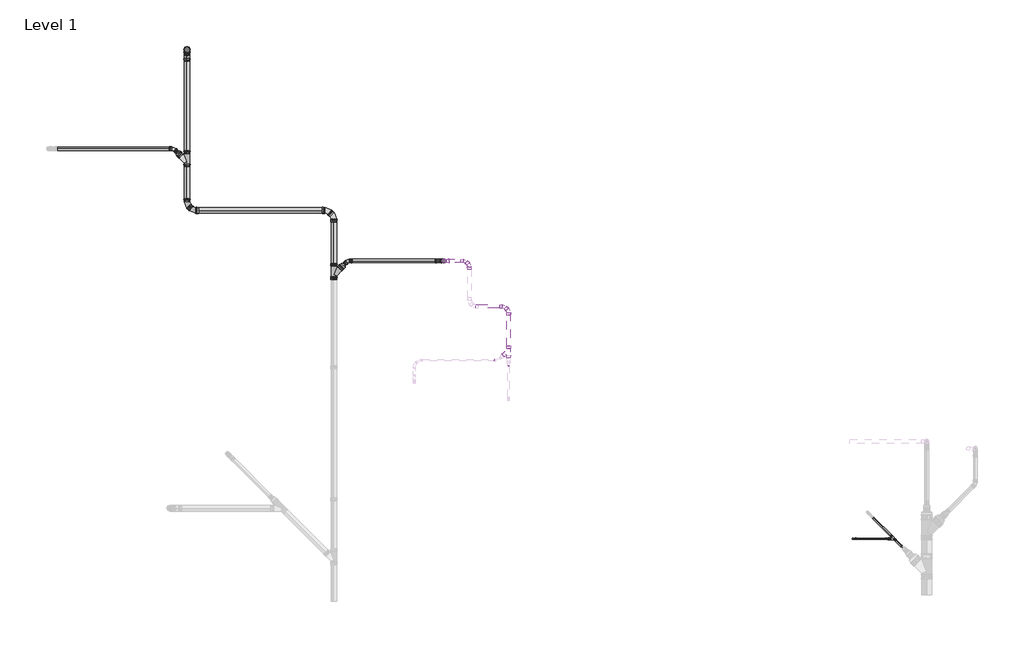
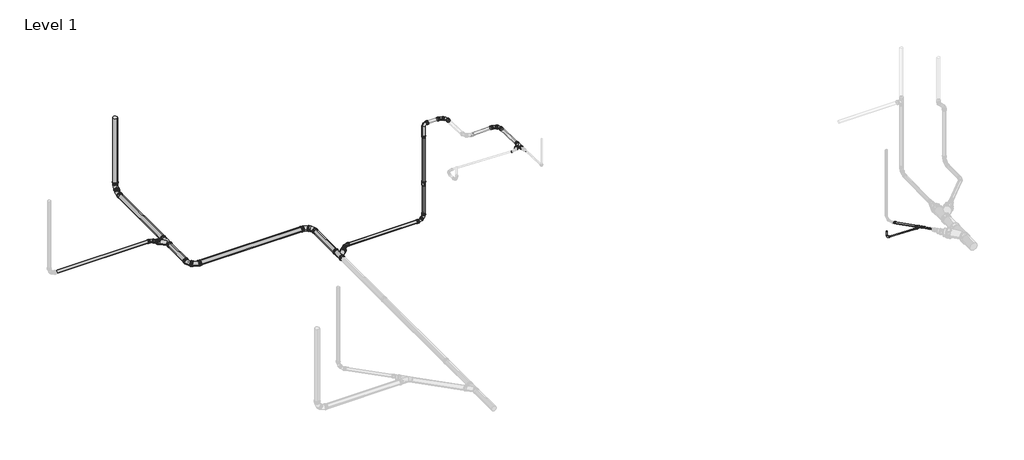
# One storey, part 2 of 8: 75 pipe fittings, 16 pipe segments.
"""IFC4 building model written with IfcOpenShell, lengths in millimetres."""

from ifc_helpers import new_model, si_unit, point, frame, frame_2d, origin, place, context, project, spatial, circle_curve, trimmed, segment, composite_curve, outline, extrude, transform, mapped, element, save
from components import std_7d5d7c72, std_7f522812, std_8a2dcd32, std_23606c27, std_dee5be90, std_f0847e49, std_f9de8ce1, std_0ddcd905, std_65e16e6f, std_512bb775, std_630098ac, std_nested_51db5023, std_nested_5b5722a1, std_nested_4232c6ad, std_nested_3508894c, std_nested_f4b71964, std_nested_afca93a4, std_nested_0d9e00e9, std_nested_fe48a173, std_nested_0864587b, std_nested_abb7c94b, std_nested_8823e034, std_nested_0554dc6d, std_nested_e6348f04, std_nested_87475930, std_nested_d12045ae, std_nested_01edd257, std_nested_ec2a7507, std_nested_473bf3f7, std_nested_352c3d66, std_nested_72f87268, std_nested_5daa23bf

model = new_model("IFC4")

# Units and contexts
model_context = context("Model", 3, world=origin())
ifc_project = project(units=[si_unit("LENGTHUNIT", "METRE", prefix="MILLI")], contexts=[model_context])

# Site, building, storey
site = spatial("IfcSite", under=ifc_project)
building = spatial("IfcBuilding", under=site)
storey = spatial("IfcBuildingStorey", under=building, Name="Level 1", Elevation=0.0)

# Pipe fittings
placement = place(None, origin())
std_shape = std_7d5d7c72(model_context)
element("IfcPipeFitting", 1, ObjectType="PIF_ST_UN_GM-X optimiserbend 1a push socket_ACO : std", at=placement, inside=storey, context=model_context, shape_type="MappedRepresentation", body=[
    mapped(std_shape, transform((-21120.1090497, 8557.3978998, 3599.9177168), x_axis=(-1.0, 0.0, 0.0), y_axis=(0.0, 0.0, -1.0), z_axis=(0.0, -1.0, 0.0))),
])
std_2_shape = std_7f522812(model_context)
element("IfcPipeFitting", 2, ObjectType="PIF_ST_UN_GM-X pipe bend_ACO : std", at=placement, inside=storey, context=model_context, shape_type="MappedRepresentation", body=[
    mapped(std_2_shape, transform((-9433.0687848, 607.4763167, 99.0030581), x_axis=(-0.9998880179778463, 0.0, 0.014965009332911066), y_axis=(0.014965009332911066, 0.0, 0.9998880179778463), z_axis=(0.0, 1.0, 0.0))),
])
std_3_shape = std_8a2dcd32(model_context)
element("IfcPipeFitting", 3, ObjectType="PIF_ST_UN_GM-X pipe end_ACO : std", at=placement, inside=storey, context=model_context, shape_type="MappedRepresentation", body=[
    mapped(std_3_shape, transform((-21120.1090497, 8557.3978998, 1317.8889473), x_axis=(0.0, 0.0, -1.0), y_axis=(0.0, -1.0, 0.0), z_axis=(-1.0, 0.0, 0.0))),
])
std_4_shape = std_23606c27(model_context)
element("IfcPipeFitting", 4, ObjectType="PIF_ST_UN_GM-X double bend_ACO : std", at=placement, inside=storey, context=model_context, shape_type="MappedRepresentation", body=[
    mapped(std_4_shape, transform((-28468.2867366, 10000.6257944, 15.5), x_axis=(0.0, -1.0, 0.0), y_axis=(1.0, 0.0, 0.0), z_axis=(0.0, 0.0, 1.0))),
])
element("IfcPipeFitting", 5, ObjectType="PIF_ST_UN_GM-X double bend_ACO : std", at=placement, inside=storey, context=model_context, shape_type="MappedRepresentation", body=[
    mapped(std_4_shape, transform((-28468.2867366, 14600.6257944, 15.5), x_axis=(0.0, 0.0, -1.0), y_axis=(0.0, -1.0, 0.0), z_axis=(-1.0, 0.0, 0.0))),
])
std_5_shape = std_dee5be90(model_context)
element("IfcPipeFitting", 6, ObjectType="PIF_ST_UN_GM-X double bend_ACO : std", at=placement, inside=storey, context=model_context, shape_type="MappedRepresentation", body=[
    mapped(std_5_shape, transform((-24268.2867366, 10000.6257944, 15.5), x_axis=(0.0, 1.0, 0.0), y_axis=(-1.0, 0.0, 0.0), z_axis=(0.0, 0.0, 1.0))),
])
std_6_shape = std_f0847e49(model_context)
element("IfcPipeFitting", 7, ObjectType="PIF_ST_UN_GM-X double bend_ACO : std", at=placement, inside=storey, context=model_context, shape_type="MappedRepresentation", body=[
    mapped(std_6_shape, transform((-21120.1090497, 8557.3978998, 44.0), x_axis=(1.0, 0.0, 0.0), y_axis=(0.0, 0.0, 1.0), z_axis=(0.0, -1.0, 0.0))),
])
std_7_shape = std_f9de8ce1(model_context)
element("IfcPipeFitting", 8, ObjectType="PIF_ST_UN_GM-X double bend_ACO : std", at=placement, inside=storey, context=model_context, shape_type="MappedRepresentation", body=[
    mapped(std_7_shape, transform((-19271.0829887, 7253.2374554, 3684.8017697), x_axis=(0.0, 0.9993880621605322, -0.03497858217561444), y_axis=(-0.999388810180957, -0.0012227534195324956, -0.034935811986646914), z_axis=(-0.03495720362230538, 0.034957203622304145, 0.9987772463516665))),
])
std_8_shape = std_0ddcd905(model_context)
element("IfcPipeFitting", 9, ObjectType="PIF_ST_UN_GM-X double bend_ACO : std", at=placement, inside=storey, context=model_context, shape_type="MappedRepresentation", body=[
    mapped(std_8_shape, transform((-20392.1811992, 8557.3978998, 3599.9177168), x_axis=(0.0, 0.9993880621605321, -0.034978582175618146), y_axis=(-1.0, 0.0, 0.0), z_axis=(0.0, 0.034978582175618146, 0.9993880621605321))),
])
std_9_shape = std_65e16e6f(model_context)
element("IfcPipeFitting", 10, ObjectType="PIF_ST_UN_GM-X multibranch_ACO : std", at=placement, inside=storey, context=model_context, shape_type="MappedRepresentation", body=[
    mapped(std_9_shape, transform((-8252.8917318, 607.4763167, 81.3325577), x_axis=(-0.7070272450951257, 0.7070272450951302, 0.014998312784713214), y_axis=(-0.7070272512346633, -0.707159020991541, 0.006211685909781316), z_axis=(0.01499802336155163, -0.006212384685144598, 0.9998682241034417))),
])
std_10_shape = std_512bb775(model_context)
element("IfcPipeFitting", 11, ObjectType="PIF_ST_UN_GM-X multibranch_ACO : std", at=placement, inside=storey, context=model_context, shape_type="MappedRepresentation", body=[
    mapped(std_10_shape, transform((-28468.2867366, 11388.8917044, 15.5), x_axis=(0.0, 1.0, 0.0), y_axis=(-1.0, 0.0, 0.0), z_axis=(0.0, 0.0, 1.0))),
])
element("IfcPipeFitting", 12, ObjectType="PIF_ST_UN_GM-X multibranch_ACO : std", at=placement, inside=storey, context=model_context, shape_type="MappedRepresentation", body=[
    mapped(std_10_shape, transform((-24268.2867366, 8162.8323159, 15.5), x_axis=(0.0, 1.0, 0.0), y_axis=(1.0, 0.0, 0.0), z_axis=(0.0, 0.0, -1.0))),
])
std_11_shape = std_630098ac(model_context)
element("IfcPipeFitting", 13, ObjectType="PIF_ST_UN_GM-X multibranch_ACO : std", at=placement, inside=storey, context=model_context, shape_type="MappedRepresentation", body=[
    mapped(std_11_shape, transform((-19271.0829887, 6007.4583847, 3728.4040372), x_axis=(0.0, -0.9993880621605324, 0.03497858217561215), y_axis=(-0.9993888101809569, 0.0012227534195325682, 0.03493581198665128), z_axis=(-0.034957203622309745, -0.03495720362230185, -0.9987772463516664))),
])
std_nested_shape = std_nested_51db5023(model_context)
element("IfcPipeFitting", 14, ObjectType="ZZZ_do not use_PIF_ST_UN_GM-X single branch_ACO : std (nested)", at=placement, inside=storey, context=model_context, shape_type="MappedRepresentation", body=[
    mapped(std_nested_shape, transform((-8252.8917318, 607.4763167, 81.3325577), x_axis=(-0.7070272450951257, 0.7070272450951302, 0.014998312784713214), y_axis=(-0.7070272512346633, -0.707159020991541, 0.006211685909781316), z_axis=(0.01499802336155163, -0.006212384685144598, 0.9998682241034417))),
])
std_nested_2_shape = std_nested_5b5722a1(model_context)
element("IfcPipeFitting", 15, ObjectType="ZZZ_do not use_PIF_ST_UN_GM-X single branch_ACO : std (nested)", at=placement, inside=storey, context=model_context, shape_type="MappedRepresentation", body=[
    mapped(std_nested_2_shape, transform((-28468.2867366, 11388.8917044, 15.5), x_axis=(0.0, 1.0, 0.0), y_axis=(-1.0, 0.0, 0.0), z_axis=(0.0, 0.0, 1.0))),
])
element("IfcPipeFitting", 16, ObjectType="ZZZ_do not use_PIF_ST_UN_GM-X single branch_ACO : std (nested)", at=placement, inside=storey, context=model_context, shape_type="MappedRepresentation", body=[
    mapped(std_nested_2_shape, transform((-24268.2867366, 8162.8323159, 15.5), x_axis=(0.0, 1.0, 0.0), y_axis=(1.0, 0.0, 0.0), z_axis=(0.0, 0.0, -1.0))),
])
std_nested_3_shape = std_nested_4232c6ad(model_context)
element("IfcPipeFitting", 17, ObjectType="ZZZ_do not use_PIF_ST_UN_GM-X single branch_ACO : std (nested)", at=placement, inside=storey, context=model_context, shape_type="MappedRepresentation", body=[
    mapped(std_nested_3_shape, transform((-19271.0829887, 6007.4583847, 3728.4040372), x_axis=(0.0, -0.9993880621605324, 0.03497858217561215), y_axis=(-0.9993888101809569, 0.0012227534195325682, 0.03493581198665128), z_axis=(-0.034957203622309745, -0.03495720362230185, -0.9987772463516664))),
])
std_nested_4_shape = std_nested_3508894c(model_context)
element("IfcPipeFitting", 18, ObjectType="ZZZ_do not use_PIF_ST_UN_GM-X transition element_ACO : std (nested)", at=placement, inside=storey, context=model_context, shape_type="MappedRepresentation", body=[
    mapped(std_nested_4_shape, transform((-8405.3745785, 607.4763167, 83.6198004), x_axis=(-0.9998875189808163, 0.0, 0.014998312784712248), y_axis=(-9.317528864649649e-05, -0.9999807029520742, -0.006211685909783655), z_axis=(0.014998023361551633, -0.0062123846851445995, 0.9998682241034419))),
])
std_nested_5_shape = std_nested_f4b71964(model_context)
element("IfcPipeFitting", 19, ObjectType="ZZZ_do not use_PIF_ST_UN_GM-X transition element_ACO : std (nested)", at=placement, inside=storey, context=model_context, shape_type="MappedRepresentation", body=[
    mapped(std_nested_5_shape, transform((-28698.0964405, 11618.7014083, 15.5), x_axis=(-0.7071067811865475, 0.7071067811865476, 0.0), y_axis=(-0.7071067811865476, -0.7071067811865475, 0.0), z_axis=(0.0, 0.0, 1.0))),
])
std_nested_6_shape = std_nested_afca93a4(model_context)
element("IfcPipeFitting", 20, ObjectType="ZZZ_do not use_PIF_ST_UN_GM-X transition element_ACO : std (nested)", at=placement, inside=storey, context=model_context, shape_type="MappedRepresentation", body=[
    mapped(std_nested_6_shape, transform((-24029.9917513, 8401.1273012, 15.5), x_axis=(0.7071067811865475, 0.7071067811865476, 0.0), y_axis=(0.7071067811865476, -0.7071067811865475, 0.0), z_axis=(0.0, 0.0, -1.0))),
])
std_nested_7_shape = std_nested_0d9e00e9(model_context)
element("IfcPipeFitting", 21, ObjectType="ZZZ_do not use_PIF_ST_UN_GM-X pipe bend_ACO : std (nested)", at=placement, inside=storey, context=model_context, shape_type="MappedRepresentation", body=[
    mapped(std_nested_7_shape, transform((-28845.8817577, 11766.4867256, 15.5), x_axis=(-0.707106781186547, 0.707106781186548, 0.0), y_axis=(-0.707106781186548, -0.707106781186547, 0.0), z_axis=(0.0, 0.0, 1.0))),
])
element("IfcPipeFitting", 22, ObjectType="ZZZ_do not use_PIF_ST_UN_GM-X pipe bend_ACO : std (nested)", at=placement, inside=storey, context=model_context, shape_type="MappedRepresentation", body=[
    mapped(std_nested_7_shape, transform((-23873.7211527, 8557.3978998, 44.0), x_axis=(0.7071067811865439, 0.7071067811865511, 0.0), y_axis=(0.7071067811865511, -0.7071067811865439, 0.0), z_axis=(0.0, 0.0, -1.0))),
])
element("IfcPipeFitting", 23, ObjectType="ZZZ_do not use_PIF_ST_UN_GM-X pipe bend_ACO : std (nested)", at=placement, inside=storey, context=model_context, shape_type="MappedRepresentation", body=[
    mapped(std_nested_7_shape, transform((-20518.0462062, 8557.3978998, 3599.9177168), x_axis=(-0.707106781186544, 0.7066740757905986, -0.024733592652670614), y_axis=(-0.707106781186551, -0.7066740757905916, 0.024733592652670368), z_axis=(0.0, 0.034978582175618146, 0.9993880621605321))),
])
std_nested_8_shape = std_nested_fe48a173(model_context)
element("IfcPipeFitting", 24, ObjectType="ZZZ_do not use_PIF_ST_UN_GM-X pipe bend_ACO : std (nested)", at=placement, inside=storey, context=model_context, shape_type="MappedRepresentation", body=[
    mapped(std_nested_8_shape, transform((-28468.2867366, 10173.8669558, 15.5), x_axis=(0.0, -1.0, 0.0), y_axis=(1.0, 0.0, 0.0), z_axis=(0.0, 0.0, 1.0))),
])
element("IfcPipeFitting", 25, ObjectType="ZZZ_do not use_PIF_ST_UN_GM-X pipe bend_ACO : std (nested)", at=placement, inside=storey, context=model_context, shape_type="MappedRepresentation", body=[
    mapped(std_nested_8_shape, transform((-28468.2867366, 14600.6257944, 188.7411614), x_axis=(0.0, 0.0, -1.0), y_axis=(0.0, -1.0, 0.0), z_axis=(-1.0, 0.0, 0.0))),
])
std_nested_9_shape = std_nested_0864587b(model_context)
element("IfcPipeFitting", 26, ObjectType="ZZZ_do not use_PIF_ST_UN_GM-X pipe bend_ACO : std (nested)", at=placement, inside=storey, context=model_context, shape_type="MappedRepresentation", body=[
    mapped(std_nested_9_shape, transform((-28295.0455752, 10000.6257944, 15.5), x_axis=(0.7071067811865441, -0.707106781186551, 0.0), y_axis=(0.707106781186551, 0.7071067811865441, 0.0), z_axis=(0.0, 0.0, 1.0))),
])
element("IfcPipeFitting", 27, ObjectType="ZZZ_do not use_PIF_ST_UN_GM-X pipe bend_ACO : std (nested)", at=placement, inside=storey, context=model_context, shape_type="MappedRepresentation", body=[
    mapped(std_nested_9_shape, transform((-28468.2867366, 14427.384633, 15.5), x_axis=(0.0, -0.7071067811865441, -0.707106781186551), y_axis=(0.0, -0.707106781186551, 0.7071067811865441), z_axis=(-1.0, 0.0, 0.0))),
])
std_nested_10_shape = std_nested_abb7c94b(model_context)
element("IfcPipeFitting", 28, ObjectType="ZZZ_do not use_PIF_ST_UN_GM-X pipe bend_ACO : std (nested)", at=placement, inside=storey, context=model_context, shape_type="MappedRepresentation", body=[
    mapped(std_nested_10_shape, transform((-24268.2867366, 9827.384633, 15.5), x_axis=(0.0, 1.0, 0.0), y_axis=(-1.0, 0.0, 0.0), z_axis=(0.0, 0.0, 1.0))),
])
std_nested_11_shape = std_nested_8823e034(model_context)
element("IfcPipeFitting", 29, ObjectType="ZZZ_do not use_PIF_ST_UN_GM-X pipe bend_ACO : std (nested)", at=placement, inside=storey, context=model_context, shape_type="MappedRepresentation", body=[
    mapped(std_nested_11_shape, transform((-24441.527898, 10000.6257944, 15.5), x_axis=(-0.7071067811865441, 0.707106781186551, 0.0), y_axis=(-0.707106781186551, -0.7071067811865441, 0.0), z_axis=(0.0, 0.0, 1.0))),
])
std_nested_12_shape = std_nested_0554dc6d(model_context)
element("IfcPipeFitting", 30, ObjectType="ZZZ_do not use_PIF_ST_UN_GM-X pipe bend_ACO : std (nested)", at=placement, inside=storey, context=model_context, shape_type="MappedRepresentation", body=[
    mapped(std_nested_12_shape, transform((-21245.9740567, 8557.3978998, 44.0), x_axis=(1.0, 0.0, 0.0), y_axis=(0.0, 0.0, 1.0), z_axis=(0.0, -1.0, 0.0))),
])
std_nested_13_shape = std_nested_e6348f04(model_context)
element("IfcPipeFitting", 31, ObjectType="ZZZ_do not use_PIF_ST_UN_GM-X pipe bend_ACO : std (nested)", at=placement, inside=storey, context=model_context, shape_type="MappedRepresentation", body=[
    mapped(std_nested_13_shape, transform((-21120.1090497, 8557.3978998, 169.8650071), x_axis=(0.707106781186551, 0.0, 0.707106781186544), y_axis=(-0.707106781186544, 0.0, 0.707106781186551), z_axis=(0.0, -1.0, 0.0))),
])
std_nested_14_shape = std_nested_87475930(model_context)
element("IfcPipeFitting", 32, ObjectType="ZZZ_do not use_PIF_ST_UN_GM-X pipe bend_ACO : std (nested)", at=placement, inside=storey, context=model_context, shape_type="MappedRepresentation", body=[
    mapped(std_nested_14_shape, transform((-19271.0829887, 7127.5263503, 3689.2016584), x_axis=(0.0, 0.9993880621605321, -0.03497858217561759), y_axis=(-0.999388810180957, -0.0012227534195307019, -0.03493581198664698), z_axis=(-0.03495720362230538, 0.03495720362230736, 0.9987772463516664))),
])
std_nested_15_shape = std_nested_d12045ae(model_context)
element("IfcPipeFitting", 33, ObjectType="ZZZ_do not use_PIF_ST_UN_GM-X pipe bend_ACO : std (nested)", at=placement, inside=storey, context=model_context, shape_type="MappedRepresentation", body=[
    mapped(std_nested_15_shape, transform((-19396.7940938, 7253.2374554, 3680.401881), x_axis=(-0.7062421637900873, 0.7062421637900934, -0.049436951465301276), y_axis=(-0.7071067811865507, -0.7071067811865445, 0.0), z_axis=(-0.03495720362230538, 0.034957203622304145, 0.9987772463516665))),
])
std_nested_16_shape = std_nested_01edd257(model_context)
element("IfcPipeFitting", 34, ObjectType="ZZZ_do not use_PIF_ST_UN_GM-X pipe bend_ACO : std (nested)", at=placement, inside=storey, context=model_context, shape_type="MappedRepresentation", body=[
    mapped(std_nested_16_shape, transform((-20392.1811992, 8431.6099143, 3604.3202963), x_axis=(0.0, 0.999388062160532, -0.03497858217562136), y_axis=(-1.0, 0.0, 0.0), z_axis=(0.0, 0.03497858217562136, 0.999388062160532))),
])
std_nested_17_shape = std_nested_ec2a7507(model_context)
element("IfcPipeFitting", 35, ObjectType="ZZZ_do not use_PIF_ST_UN_GM-X seal non transitional_ACO : std (nested)", at=placement, inside=storey, context=model_context, shape_type="MappedRepresentation", body=[
    mapped(std_nested_17_shape, transform((-8493.8646239, 607.4763167, 84.9471511), x_axis=(-0.9998875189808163, 0.0, 0.014998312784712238), y_axis=(-9.317528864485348e-05, -0.9999807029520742, -0.006211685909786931), z_axis=(0.014998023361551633, -0.006212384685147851, 0.9998682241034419))),
])
element("IfcPipeFitting", 36, ObjectType="ZZZ_do not use_PIF_ST_UN_GM-X seal non transitional_ACO : std (nested)", at=placement, inside=storey, context=model_context, shape_type="MappedRepresentation", body=[
    mapped(std_nested_17_shape, transform((-9433.0687848, 607.4763167, 194.0030581), x_axis=(0.0, 0.0, 1.0), y_axis=(1.0, 0.0, 0.0), z_axis=(0.0, 1.0, 0.0))),
])
element("IfcPipeFitting", 37, ObjectType="ZZZ_do not use_PIF_ST_UN_GM-X seal non transitional_ACO : std (nested)", at=placement, inside=storey, context=model_context, shape_type="MappedRepresentation", body=[
    mapped(std_nested_17_shape, transform((-9359.0770715, 607.4763167, 97.8956475), x_axis=(-0.9998880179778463, 0.0, 0.014965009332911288), y_axis=(0.014965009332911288, 0.0, 0.9998880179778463), z_axis=(0.0, 1.0, 0.0))),
])
std_nested_18_shape = std_nested_473bf3f7(model_context)
element("IfcPipeFitting", 38, ObjectType="ZZZ_do not use_PIF_ST_UN_GM-X seal non transitional_ACO : std (nested)", at=placement, inside=storey, context=model_context, shape_type="MappedRepresentation", body=[
    mapped(std_nested_18_shape, transform((-28807.6979915, 11728.3029594, 15.5), x_axis=(-0.7071067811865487, 0.7071067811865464, 0.0), y_axis=(-0.7071067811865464, -0.7071067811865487, 0.0), z_axis=(0.0, 0.0, 1.0))),
])
element("IfcPipeFitting", 39, ObjectType="ZZZ_do not use_PIF_ST_UN_GM-X seal non transitional_ACO : std (nested)", at=placement, inside=storey, context=model_context, shape_type="MappedRepresentation", body=[
    mapped(std_nested_18_shape, transform((-23911.9049189, 8519.2141336, 44.0), x_axis=(0.7071067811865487, 0.7071067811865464, 0.0), y_axis=(0.7071067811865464, -0.7071067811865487, 0.0), z_axis=(0.0, 0.0, -1.0))),
])
element("IfcPipeFitting", 40, ObjectType="ZZZ_do not use_PIF_ST_UN_GM-X seal non transitional_ACO : std (nested)", at=placement, inside=storey, context=model_context, shape_type="MappedRepresentation", body=[
    mapped(std_nested_18_shape, transform((-19271.0829887, 7003.6022306, 3693.5390026), x_axis=(0.0, -0.9993880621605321, 0.03497858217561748), y_axis=(0.999388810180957, 0.0012227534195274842, 0.03493581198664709), z_axis=(-0.03495720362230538, 0.03495720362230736, 0.9987772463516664))),
])
element("IfcPipeFitting", 41, ObjectType="ZZZ_do not use_PIF_ST_UN_GM-X seal non transitional_ACO : std (nested)", at=placement, inside=storey, context=model_context, shape_type="MappedRepresentation", body=[
    mapped(std_nested_18_shape, transform((-19309.2200655, 7165.6634271, 3686.532063), x_axis=(0.706242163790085, -0.7062421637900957, 0.049436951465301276), y_axis=(0.7071067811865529, 0.7071067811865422, 0.0), z_axis=(-0.03495720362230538, 0.034957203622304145, 0.9987772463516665))),
])
element("IfcPipeFitting", 42, ObjectType="ZZZ_do not use_PIF_ST_UN_GM-X seal non transitional_ACO : std (nested)", at=placement, inside=storey, context=model_context, shape_type="MappedRepresentation", body=[
    mapped(std_nested_18_shape, transform((-21369.9740567, 8557.3978998, 44.0), x_axis=(-1.0, 0.0, 0.0), y_axis=(0.0, 0.0, -1.0), z_axis=(0.0, -1.0, 0.0))),
])
element("IfcPipeFitting", 43, ObjectType="ZZZ_do not use_PIF_ST_UN_GM-X seal non transitional_ACO : std (nested)", at=placement, inside=storey, context=model_context, shape_type="MappedRepresentation", body=[
    mapped(std_nested_18_shape, transform((-21207.7902905, 8557.3978998, 82.1837662), x_axis=(-0.7071067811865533, 0.0, -0.7071067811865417), y_axis=(0.7071067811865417, 0.0, -0.7071067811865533), z_axis=(0.0, -1.0, 0.0))),
])
element("IfcPipeFitting", 44, ObjectType="ZZZ_do not use_PIF_ST_UN_GM-X seal non transitional_ACO : std (nested)", at=placement, inside=storey, context=model_context, shape_type="MappedRepresentation", body=[
    mapped(std_nested_18_shape, transform((-20970.1090497, 8557.3978998, 3599.9177168), x_axis=(1.0, 0.0, 0.0), y_axis=(0.0, 0.0, 1.0), z_axis=(0.0, -1.0, 0.0))),
])
element("IfcPipeFitting", 45, ObjectType="ZZZ_do not use_PIF_ST_UN_GM-X seal non transitional_ACO : std (nested)", at=placement, inside=storey, context=model_context, shape_type="MappedRepresentation", body=[
    mapped(std_nested_18_shape, transform((-20479.86244, 8519.2374997, 3601.2533308), x_axis=(-0.7071067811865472, 0.7066740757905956, -0.024733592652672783), y_axis=(-0.707106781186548, -0.7066740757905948, 0.02473359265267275), z_axis=(0.0, 0.03497858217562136, 0.999388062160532))),
])
element("IfcPipeFitting", 46, ObjectType="ZZZ_do not use_PIF_ST_UN_GM-X seal non transitional_ACO : std (nested)", at=placement, inside=storey, context=model_context, shape_type="MappedRepresentation", body=[
    mapped(std_nested_18_shape, transform((-28969.8817577, 11766.4867256, 15.5), x_axis=(-1.0, 0.0, 0.0), y_axis=(0.0, -1.0, 0.0), z_axis=(0.0, 0.0, 1.0))),
])
element("IfcPipeFitting", 47, ObjectType="ZZZ_do not use_PIF_ST_UN_GM-X seal non transitional_ACO : std (nested)", at=placement, inside=storey, context=model_context, shape_type="MappedRepresentation", body=[
    mapped(std_nested_18_shape, transform((-23749.7211527, 8557.3978998, 44.0), x_axis=(1.0000000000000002, 0.0, 0.0), y_axis=(0.0, -1.0000000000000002, 0.0), z_axis=(0.0, 0.0, -1.0))),
])
element("IfcPipeFitting", 48, ObjectType="ZZZ_do not use_PIF_ST_UN_GM-X seal non transitional_ACO : std (nested)", at=placement, inside=storey, context=model_context, shape_type="MappedRepresentation", body=[
    mapped(std_nested_18_shape, transform((-19450.7610492, 7253.2374554, 3678.5130376), x_axis=(0.9993880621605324, 0.0, 0.03497858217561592), y_axis=(0.001222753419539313, 0.9993888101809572, -0.034935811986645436), z_axis=(-0.03495720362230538, 0.034957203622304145, 0.9987772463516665))),
])
element("IfcPipeFitting", 49, ObjectType="ZZZ_do not use_PIF_ST_UN_GM-X seal non transitional_ACO : std (nested)", at=placement, inside=storey, context=model_context, shape_type="MappedRepresentation", body=[
    mapped(std_nested_18_shape, transform((-19271.0829887, 6047.4339071, 3727.0048939), x_axis=(0.0, -0.9993880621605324, 0.03497858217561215), y_axis=(0.9993888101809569, -0.0012227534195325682, -0.03493581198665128), z_axis=(0.034957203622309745, 0.03495720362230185, 0.9987772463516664))),
])
element("IfcPipeFitting", 50, ObjectType="ZZZ_do not use_PIF_ST_UN_GM-X seal non transitional_ACO : std (nested)", at=placement, inside=storey, context=model_context, shape_type="MappedRepresentation", body=[
    mapped(std_nested_18_shape, transform((-20392.1811992, 8377.642959, 3606.2091397), x_axis=(0.0, 0.999388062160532, -0.03497858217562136), y_axis=(-1.0, 0.0, 0.0), z_axis=(0.0, 0.03497858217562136, 0.999388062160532))),
])
element("IfcPipeFitting", 51, ObjectType="ZZZ_do not use_PIF_ST_UN_GM-X seal non transitional_ACO : std (nested)", at=placement, inside=storey, context=model_context, shape_type="MappedRepresentation", body=[
    mapped(std_nested_18_shape, transform((-20642.0462062, 8557.3978998, 3599.9177168), x_axis=(-1.0, 0.0, 0.0), y_axis=(0.0, -0.9993880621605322, 0.03497858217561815), z_axis=(0.0, 0.034978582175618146, 0.9993880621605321))),
])
element("IfcPipeFitting", 52, ObjectType="ZZZ_do not use_PIF_ST_UN_GM-X seal non transitional_ACO : std (nested)", at=placement, inside=storey, context=model_context, shape_type="MappedRepresentation", body=[
    mapped(std_nested_18_shape, transform((-21120.1090497, 8557.3978998, 223.8650071), x_axis=(0.0, 0.0, -1.0), y_axis=(1.0, 0.0, 0.0), z_axis=(0.0, -1.0, 0.0))),
])
element("IfcPipeFitting", 53, ObjectType="ZZZ_do not use_PIF_ST_UN_GM-X seal non transitional_ACO : std (nested)", at=placement, inside=storey, context=model_context, shape_type="MappedRepresentation", body=[
    mapped(std_nested_18_shape, transform((-21120.1090497, 8557.3978998, 3169.9177168), x_axis=(0.0, 0.0, 1.0), y_axis=(-1.0, 0.0, 0.0), z_axis=(0.0, -1.0, 0.0))),
])
element("IfcPipeFitting", 54, ObjectType="ZZZ_do not use_PIF_ST_UN_GM-X seal non transitional_ACO : std (nested)", at=placement, inside=storey, context=model_context, shape_type="MappedRepresentation", body=[
    mapped(std_nested_18_shape, transform((-21120.1090497, 8557.3978998, 1467.8889473), x_axis=(0.0, 0.0, 1.0), y_axis=(0.0, 1.0, 0.0), z_axis=(-1.0, 0.0, 0.0))),
])
std_nested_19_shape = std_nested_352c3d66(model_context)
element("IfcPipeFitting", 55, ObjectType="ZZZ_do not use_PIF_ST_UN_GM-X seal non transitional_ACO : std (nested)", at=placement, inside=storey, context=model_context, shape_type="MappedRepresentation", body=[
    mapped(std_nested_19_shape, transform((-8380.8773343, 607.4763167, 83.2523417), x_axis=(-0.9998875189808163, 0.0, 0.014998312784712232), y_axis=(-9.317528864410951e-05, -0.9999807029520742, -0.006211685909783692), z_axis=(0.014998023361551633, -0.0062123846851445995, 0.9998682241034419))),
])
element("IfcPipeFitting", 56, ObjectType="ZZZ_do not use_PIF_ST_UN_GM-X seal non transitional_ACO : std (nested)", at=placement, inside=storey, context=model_context, shape_type="MappedRepresentation", body=[
    mapped(std_nested_19_shape, transform((-8339.856083, 694.4406679, 83.1773502), x_axis=(-0.7070272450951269, 0.7070272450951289, 0.014998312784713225), y_axis=(-0.707027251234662, -0.7071590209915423, 0.006211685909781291), z_axis=(0.01499802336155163, -0.006212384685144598, 0.9998682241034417))),
])
element("IfcPipeFitting", 57, ObjectType="ZZZ_do not use_PIF_ST_UN_GM-X seal non transitional_ACO : std (nested)", at=placement, inside=storey, context=model_context, shape_type="MappedRepresentation", body=[
    mapped(std_nested_19_shape, transform((-8041.1856069, 395.7701918, 76.8415926), x_axis=(-0.7070272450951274, 0.7070272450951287, 0.014998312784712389), y_axis=(-0.7071590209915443, -0.7070272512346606, -0.006211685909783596), z_axis=(0.0062123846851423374, -0.014998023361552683, 0.9998682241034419))),
])
element("IfcPipeFitting", 58, ObjectType="ZZZ_do not use_PIF_ST_UN_GM-X seal non transitional_ACO : std (nested)", at=placement, inside=storey, context=model_context, shape_type="MappedRepresentation", body=[
    mapped(std_nested_19_shape, transform((-8233.8019962, 588.3865811, 80.9276033), x_axis=(-0.7070272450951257, 0.7070272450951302, 0.014998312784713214), y_axis=(0.7070272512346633, 0.707159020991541, -0.006211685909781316), z_axis=(-0.01499802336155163, 0.006212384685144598, -0.9998682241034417))),
])
element("IfcPipeFitting", 59, ObjectType="ZZZ_do not use_PIF_ST_UN_GM-X seal non transitional_ACO : std (nested)", at=placement, inside=storey, context=model_context, shape_type="MappedRepresentation", body=[
    mapped(std_nested_19_shape, transform((-19677.9781011, 5714.5267882, 3777.0675254), x_axis=(-0.9993881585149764, 8.146694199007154e-05, 0.034975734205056), y_axis=(-0.0011412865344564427, 0.9993888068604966, -0.034938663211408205), z_axis=(-0.03495720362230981, -0.03495720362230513, -0.9987772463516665))),
])
std_nested_20_shape = std_nested_72f87268(model_context)
element("IfcPipeFitting", 60, ObjectType="ZZZ_do not use_PIF_ST_UN_GM-X seal non transitional_ACO : std (nested)", at=placement, inside=storey, context=model_context, shape_type="MappedRepresentation", body=[
    mapped(std_nested_20_shape, transform((-28694.5609066, 11615.1658744, 15.5), x_axis=(-0.7071067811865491, 0.7071067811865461, 0.0), y_axis=(-0.7071067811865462, -0.7071067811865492, 0.0), z_axis=(0.0, 0.0, 1.0000000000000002))),
])
element("IfcPipeFitting", 61, ObjectType="ZZZ_do not use_PIF_ST_UN_GM-X seal non transitional_ACO : std (nested)", at=placement, inside=storey, context=model_context, shape_type="MappedRepresentation", body=[
    mapped(std_nested_20_shape, transform((-28468.2867366, 11708.8917044, 15.5), x_axis=(0.0, 1.0, 0.0), y_axis=(-1.0, 0.0, 0.0), z_axis=(0.0, 0.0, 1.0))),
])
element("IfcPipeFitting", 62, ObjectType="ZZZ_do not use_PIF_ST_UN_GM-X seal non transitional_ACO : std (nested)", at=placement, inside=storey, context=model_context, shape_type="MappedRepresentation", body=[
    mapped(std_nested_20_shape, transform((-24042.0125666, 8389.1064859, 15.5), x_axis=(0.7071067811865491, 0.7071067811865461, 0.0), y_axis=(0.7071067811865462, -0.7071067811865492, 0.0), z_axis=(0.0, 0.0, -1.0000000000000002))),
])
element("IfcPipeFitting", 63, ObjectType="ZZZ_do not use_PIF_ST_UN_GM-X seal non transitional_ACO : std (nested)", at=placement, inside=storey, context=model_context, shape_type="MappedRepresentation", body=[
    mapped(std_nested_20_shape, transform((-24268.2867366, 8482.8323159, 15.5), x_axis=(0.0, 1.0, 0.0), y_axis=(1.0, 0.0, 0.0), z_axis=(0.0, 0.0, -1.0))),
])
element("IfcPipeFitting", 64, ObjectType="ZZZ_do not use_PIF_ST_UN_GM-X seal non transitional_ACO : std (nested)", at=placement, inside=storey, context=model_context, shape_type="MappedRepresentation", body=[
    mapped(std_nested_20_shape, transform((-28468.2867366, 10336.8669558, 15.5), x_axis=(0.0, 1.0, 0.0), y_axis=(-1.0, 0.0, 0.0), z_axis=(0.0, 0.0, 1.0))),
])
element("IfcPipeFitting", 65, ObjectType="ZZZ_do not use_PIF_ST_UN_GM-X seal non transitional_ACO : std (nested)", at=placement, inside=storey, context=model_context, shape_type="MappedRepresentation", body=[
    mapped(std_nested_20_shape, transform((-28410.3039805, 10115.8841997, 15.5), x_axis=(-0.7071067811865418, 0.7071067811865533, 0.0), y_axis=(-0.7071067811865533, -0.7071067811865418, 0.0), z_axis=(0.0, 0.0, 1.0))),
])
element("IfcPipeFitting", 66, ObjectType="ZZZ_do not use_PIF_ST_UN_GM-X seal non transitional_ACO : std (nested)", at=placement, inside=storey, context=model_context, shape_type="MappedRepresentation", body=[
    mapped(std_nested_20_shape, transform((-28468.2867366, 14600.6257944, 351.7411614), x_axis=(0.0, 0.0, 1.0), y_axis=(0.0, 1.0, 0.0), z_axis=(-1.0, 0.0, 0.0))),
])
element("IfcPipeFitting", 67, ObjectType="ZZZ_do not use_PIF_ST_UN_GM-X seal non transitional_ACO : std (nested)", at=placement, inside=storey, context=model_context, shape_type="MappedRepresentation", body=[
    mapped(std_nested_20_shape, transform((-28468.2867366, 14542.6430383, 130.7584053), x_axis=(0.0, 0.7071067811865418, 0.7071067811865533), y_axis=(0.0, 0.7071067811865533, -0.7071067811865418), z_axis=(-1.0, 0.0, 0.0))),
])
element("IfcPipeFitting", 68, ObjectType="ZZZ_do not use_PIF_ST_UN_GM-X seal non transitional_ACO : std (nested)", at=placement, inside=storey, context=model_context, shape_type="MappedRepresentation", body=[
    mapped(std_nested_20_shape, transform((-24383.5451419, 9942.6430383, 15.5), x_axis=(-0.7071067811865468, 0.7071067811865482, 0.0), y_axis=(-0.7071067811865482, -0.7071067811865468, 0.0), z_axis=(0.0, 0.0, 1.0))),
])
element("IfcPipeFitting", 69, ObjectType="ZZZ_do not use_PIF_ST_UN_GM-X seal non transitional_ACO : std (nested)", at=placement, inside=storey, context=model_context, shape_type="MappedRepresentation", body=[
    mapped(std_nested_20_shape, transform((-28468.2867366, 11328.8917044, 15.5), x_axis=(0.0, 1.0, 0.0), y_axis=(1.0, 0.0, 0.0), z_axis=(0.0, 0.0, -1.0))),
])
element("IfcPipeFitting", 70, ObjectType="ZZZ_do not use_PIF_ST_UN_GM-X seal non transitional_ACO : std (nested)", at=placement, inside=storey, context=model_context, shape_type="MappedRepresentation", body=[
    mapped(std_nested_20_shape, transform((-24268.2867366, 8102.8323159, 15.5), x_axis=(0.0, 1.0, 0.0), y_axis=(-1.0, 0.0, 0.0), z_axis=(0.0, 0.0, 1.0))),
])
element("IfcPipeFitting", 71, ObjectType="ZZZ_do not use_PIF_ST_UN_GM-X seal non transitional_ACO : std (nested)", at=placement, inside=storey, context=model_context, shape_type="MappedRepresentation", body=[
    mapped(std_nested_20_shape, transform((-28213.0455752, 10000.6257944, 15.5), x_axis=(-1.0, 0.0, 0.0), y_axis=(0.0, -1.0, 0.0), z_axis=(0.0, 0.0, 1.0))),
])
element("IfcPipeFitting", 72, ObjectType="ZZZ_do not use_PIF_ST_UN_GM-X seal non transitional_ACO : std (nested)", at=placement, inside=storey, context=model_context, shape_type="MappedRepresentation", body=[
    mapped(std_nested_20_shape, transform((-24268.2867366, 9745.384633, 15.5), x_axis=(0.0, 1.0, 0.0), y_axis=(-1.0, 0.0, 0.0), z_axis=(0.0, 0.0, 1.0))),
])
element("IfcPipeFitting", 73, ObjectType="ZZZ_do not use_PIF_ST_UN_GM-X seal non transitional_ACO : std (nested)", at=placement, inside=storey, context=model_context, shape_type="MappedRepresentation", body=[
    mapped(std_nested_20_shape, transform((-24604.527898, 10000.6257944, 15.5), x_axis=(-1.0, 0.0, 0.0), y_axis=(0.0, -1.0, 0.0), z_axis=(0.0, 0.0, 1.0))),
])
element("IfcPipeFitting", 74, ObjectType="ZZZ_do not use_PIF_ST_UN_GM-X seal non transitional_ACO : std (nested)", at=placement, inside=storey, context=model_context, shape_type="MappedRepresentation", body=[
    mapped(std_nested_20_shape, transform((-28468.2867366, 14345.384633, 15.5), x_axis=(0.0, 1.0, 0.0), y_axis=(0.0, 0.0, -1.0), z_axis=(-1.0, 0.0, 0.0))),
])
std_nested_21_shape = std_nested_5daa23bf(model_context)
element("IfcPipeFitting", 75, ObjectType="ZZZ_do not use_PIF_ST_UN_GM-X seal non transitional_ACO : std (nested)", at=placement, inside=storey, context=model_context, shape_type="MappedRepresentation", body=[
    mapped(std_nested_21_shape, transform((-19270.0353213, 5548.7875435, 3774.4275391), x_axis=(0.0, -0.9993880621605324, 0.03497858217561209), y_axis=(0.9993888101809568, -0.001222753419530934, -0.03493581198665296), z_axis=(0.03495720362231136, 0.034957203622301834, 0.9987772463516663))),
])

# Pipe segments
element("IfcPipeSegment", 76, ObjectType="GM-X pipe complex", at=placement, inside=storey, context=model_context, shape_type="SweptSolid", body=[
    extrude(outline(composite_curve([segment(trimmed(circle_curve(frame_2d((0.0, -26.5)), 26.5), [point((-26.49702, -26.8974106))], [point((-0.3974106, -0.0029801))], False, "CARTESIAN"), True, "CONTINUOUS"), segment(trimmed(circle_curve(frame_2d((0.0, -26.5)), 26.5), [point((-0.3974106, -0.0029801))], [point((26.4970199, -26.1025894))], False, "CARTESIAN"), True, "CONTINUOUS"), segment(trimmed(circle_curve(frame_2d((0.0, -26.5)), 26.5), [point((26.4970199, -26.1025894))], [point((0.3974106, -52.99702))], False, "CARTESIAN"), True, "CONTINUOUS"), segment(trimmed(circle_curve(frame_2d((0.0, -26.5)), 26.5), [point((0.3974106, -52.99702))], [point((-26.49702, -26.8974106))], False, "CARTESIAN"), True, "CONTINUOUS")], self_intersect=False)), frame((-8014.3185716, 369.46518, 49.7776172), z_axis=(-0.7070272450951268, 0.7070272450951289, 0.014998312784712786), x_axis=(0.7071863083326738, 0.706868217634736, 0.014994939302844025)), (0.0, 0.0, 1.0), 272.4313534),
])
element("IfcPipeSegment", 77, ObjectType="GM-X pipe complex", at=placement, inside=storey, context=model_context, shape_type="SweptSolid", body=[
    extrude(outline(composite_curve([segment(trimmed(circle_curve(frame_2d((0.0, 16.0)), 16.0), [point((0.0, 32.0))], [point((15.9999999, 16.0))], False, "CARTESIAN"), True, "CONTINUOUS"), segment(trimmed(circle_curve(frame_2d((0.0, 16.0)), 16.0), [point((15.9999999, 16.0))], [point((0.0, 0.0))], False, "CARTESIAN"), True, "CONTINUOUS"), segment(trimmed(circle_curve(frame_2d((0.0, 16.0)), 16.0), [point((0.0, 0.0))], [point((-16.0, 16.0))], False, "CARTESIAN"), True, "CONTINUOUS"), segment(trimmed(circle_curve(frame_2d((0.0, 16.0)), 16.0), [point((-16.0, 16.0))], [point((0.0, 32.0))], False, "CARTESIAN"), True, "CONTINUOUS")], self_intersect=False)), frame((-8467.8675484, 591.4763167, 84.557195), z_axis=(-0.9998880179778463, 0.0, 0.014965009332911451), x_axis=(0.014965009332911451, 0.0, 0.9998880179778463)), (0.0, 0.0, 1.0), 865.3093337),
])
element("IfcPipeSegment", 78, ObjectType="GM-X pipe complex", at=placement, inside=storey, context=model_context, shape_type="SweptSolid", body=[
    extrude(outline(composite_curve([segment(trimmed(circle_curve(frame_2d((1e-07, -26.5)), 26.5), [point((-26.4970199, -26.8974099))], [point((-0.3974098, -0.00298))], False, "CARTESIAN"), True, "CONTINUOUS"), segment(trimmed(circle_curve(frame_2d((1e-07, -26.5)), 26.5), [point((-0.3974098, -0.00298))], [point((26.49702, -26.1025901))], False, "CARTESIAN"), True, "CONTINUOUS"), segment(trimmed(circle_curve(frame_2d((1e-07, -26.5)), 26.5), [point((26.49702, -26.1025901))], [point((0.39741, -52.9970199))], False, "CARTESIAN"), True, "CONTINUOUS"), segment(trimmed(circle_curve(frame_2d((1e-07, -26.5)), 26.5), [point((0.39741, -52.9970199))], [point((-26.4970199, -26.8974099))], False, "CARTESIAN"), True, "CONTINUOUS")], self_intersect=False)), frame((-8312.9890477, 668.1356556, 56.1133748), z_axis=(-0.7070264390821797, 0.7070280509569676, 0.014998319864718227), x_axis=(0.7071871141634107, 0.706867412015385, 0.014994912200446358)), (0.0, 0.0, 1.0), 761.3040045),
])
element("IfcPipeSegment", 79, ObjectType="GM-X pipe complex", at=placement, inside=storey, context=model_context, shape_type="SweptSolid", body=[
    extrude(outline(composite_curve([segment(trimmed(circle_curve(frame_2d((-9433.0687848, 607.4763167)), 16.0), [point((-9449.0687848, 607.4763167))], [point((-9433.0687848, 623.4763167))], False, "CARTESIAN"), True, "CONTINUOUS"), segment(trimmed(circle_curve(frame_2d((-9433.0687848, 607.4763167)), 16.0), [point((-9433.0687848, 623.4763167))], [point((-9417.0687848, 607.4763167))], False, "CARTESIAN"), True, "CONTINUOUS"), segment(trimmed(circle_curve(frame_2d((-9433.0687848, 607.4763167)), 16.0), [point((-9417.0687848, 607.4763167))], [point((-9433.0687848, 591.4763167))], False, "CARTESIAN"), True, "CONTINUOUS"), segment(trimmed(circle_curve(frame_2d((-9433.0687848, 607.4763167)), 16.0), [point((-9433.0687848, 591.4763167))], [point((-9449.0687848, 607.4763167))], False, "CARTESIAN"), True, "CONTINUOUS")], self_intersect=False)), frame((0.0, 0.0, 168.0030581), z_axis=(0.0, 0.0, 1.0), x_axis=(1.0, 0.0, 0.0)), (0.0, 0.0, 1.0), 171.9969419),
])
element("IfcPipeSegment", 80, ObjectType="GM-X pipe complex", at=placement, inside=storey, context=model_context, shape_type="SweptSolid", body=[
    extrude(outline(composite_curve([segment(trimmed(circle_curve(frame_2d((15.5, -28468.2867366)), 79.5), [point((15.5, -28547.7867366))], [point((-64.0, -28468.2867366))], False, "CARTESIAN"), True, "CONTINUOUS"), segment(trimmed(circle_curve(frame_2d((15.5, -28468.2867366)), 79.5), [point((-64.0, -28468.2867366))], [point((15.5, -28388.7867366))], False, "CARTESIAN"), True, "CONTINUOUS"), segment(trimmed(circle_curve(frame_2d((15.5, -28468.2867366)), 79.5), [point((15.5, -28388.7867366))], [point((95.0, -28468.2867366))], False, "CARTESIAN"), True, "CONTINUOUS"), segment(trimmed(circle_curve(frame_2d((15.5, -28468.2867366)), 79.5), [point((95.0, -28468.2867366))], [point((15.5, -28547.7867366))], False, "CARTESIAN"), True, "CONTINUOUS")], self_intersect=False)), frame((0.0, 10256.8669558, 0.0), z_axis=(0.0, 1.0, 0.0), x_axis=(0.0, 0.0, 1.0)), (0.0, 0.0, 1.0), 992.0247487),
])
element("IfcPipeSegment", 81, ObjectType="GM-X pipe complex", at=placement, inside=storey, context=model_context, shape_type="SweptSolid", body=[
    extrude(outline(composite_curve([segment(trimmed(circle_curve(frame_2d((10000.6257944, 15.5)), 79.5), [point((9921.1257944, 15.5))], [point((10000.6257944, 95.0))], False, "CARTESIAN"), True, "CONTINUOUS"), segment(trimmed(circle_curve(frame_2d((10000.6257944, 15.5)), 79.5), [point((10000.6257944, 95.0))], [point((10080.1257944, 15.5))], False, "CARTESIAN"), True, "CONTINUOUS"), segment(trimmed(circle_curve(frame_2d((10000.6257944, 15.5)), 79.5), [point((10080.1257944, 15.5))], [point((10000.6257944, -64.0))], False, "CARTESIAN"), True, "CONTINUOUS"), segment(trimmed(circle_curve(frame_2d((10000.6257944, 15.5)), 79.5), [point((10000.6257944, -64.0))], [point((9921.1257944, 15.5))], False, "CARTESIAN"), True, "CONTINUOUS")], self_intersect=False)), frame((-28133.0455752, 0.0, 0.0), z_axis=(1.0, 0.0, 0.0), x_axis=(0.0, 1.0, 0.0)), (0.0, 0.0, 1.0), 3608.5176772),
])
element("IfcPipeSegment", 82, ObjectType="GM-X pipe complex", at=placement, inside=storey, context=model_context, shape_type="SweptSolid", body=[
    extrude(outline(composite_curve([segment(trimmed(circle_curve(frame_2d((15.5, -24268.2867366)), 79.5), [point((15.5, -24347.7867366))], [point((-64.0, -24268.2867366))], False, "CARTESIAN"), True, "CONTINUOUS"), segment(trimmed(circle_curve(frame_2d((15.5, -24268.2867366)), 79.5), [point((-64.0, -24268.2867366))], [point((15.5, -24188.7867366))], False, "CARTESIAN"), True, "CONTINUOUS"), segment(trimmed(circle_curve(frame_2d((15.5, -24268.2867366)), 79.5), [point((15.5, -24188.7867366))], [point((95.0, -24268.2867366))], False, "CARTESIAN"), True, "CONTINUOUS"), segment(trimmed(circle_curve(frame_2d((15.5, -24268.2867366)), 79.5), [point((95.0, -24268.2867366))], [point((15.5, -24347.7867366))], False, "CARTESIAN"), True, "CONTINUOUS")], self_intersect=False)), frame((0.0, 8402.8323159, 0.0), z_axis=(0.0, 1.0, 0.0), x_axis=(0.0, 0.0, 1.0)), (0.0, 0.0, 1.0), 1262.5523171),
])
element("IfcPipeSegment", 83, ObjectType="GM-X pipe complex", at=placement, inside=storey, context=model_context, shape_type="SweptSolid", body=[
    extrude(outline(composite_curve([segment(trimmed(circle_curve(frame_2d((-28468.2867366, 14600.6257944)), 79.5), [point((-28388.7867366, 14600.6257944))], [point((-28468.2867366, 14521.1257944))], False, "CARTESIAN"), True, "CONTINUOUS"), segment(trimmed(circle_curve(frame_2d((-28468.2867366, 14600.6257944)), 79.5), [point((-28468.2867366, 14521.1257944))], [point((-28547.7867366, 14600.6257944))], False, "CARTESIAN"), True, "CONTINUOUS"), segment(trimmed(circle_curve(frame_2d((-28468.2867366, 14600.6257944)), 79.5), [point((-28547.7867366, 14600.6257944))], [point((-28468.2867366, 14680.1257944))], False, "CARTESIAN"), True, "CONTINUOUS"), segment(trimmed(circle_curve(frame_2d((-28468.2867366, 14600.6257944)), 79.5), [point((-28468.2867366, 14680.1257944))], [point((-28388.7867366, 14600.6257944))], False, "CARTESIAN"), True, "CONTINUOUS")], self_intersect=False)), frame((0.0, 0.0, 271.7411614), z_axis=(0.0, 0.0, 1.0), x_axis=(1.0, 0.0, 0.0)), (0.0, 0.0, 1.0), 2471.4588386),
])
element("IfcPipeSegment", 84, ObjectType="GM-X pipe complex", at=placement, inside=storey, context=model_context, shape_type="SweptSolid", body=[
    extrude(outline(composite_curve([segment(trimmed(circle_curve(frame_2d((15.5, -28468.2867366)), 79.5), [point((15.5, -28547.7867366))], [point((-64.0, -28468.2867366))], False, "CARTESIAN"), True, "CONTINUOUS"), segment(trimmed(circle_curve(frame_2d((15.5, -28468.2867366)), 79.5), [point((-64.0, -28468.2867366))], [point((15.5, -28388.7867366))], False, "CARTESIAN"), True, "CONTINUOUS"), segment(trimmed(circle_curve(frame_2d((15.5, -28468.2867366)), 79.5), [point((15.5, -28388.7867366))], [point((95.0, -28468.2867366))], False, "CARTESIAN"), True, "CONTINUOUS"), segment(trimmed(circle_curve(frame_2d((15.5, -28468.2867366)), 79.5), [point((95.0, -28468.2867366))], [point((15.5, -28547.7867366))], False, "CARTESIAN"), True, "CONTINUOUS")], self_intersect=False)), frame((0.0, 11628.8917044, 0.0), z_axis=(0.0, 1.0, 0.0), x_axis=(0.0, 0.0, 1.0)), (0.0, 0.0, 1.0), 2636.4929286),
])
element("IfcPipeSegment", 85, ObjectType="GM-X pipe complex", at=placement, inside=storey, context=model_context, shape_type="SweptSolid", body=[
    extrude(outline(composite_curve([segment(trimmed(circle_curve(frame_2d((-21120.1090497, 8557.3978998)), 51.5), [point((-21068.6090497, 8557.3978998))], [point((-21120.1090497, 8505.8978998))], False, "CARTESIAN"), True, "CONTINUOUS"), segment(trimmed(circle_curve(frame_2d((-21120.1090497, 8557.3978998)), 51.5), [point((-21120.1090497, 8505.8978998))], [point((-21171.6090497, 8557.3978998))], False, "CARTESIAN"), True, "CONTINUOUS"), segment(trimmed(circle_curve(frame_2d((-21120.1090497, 8557.3978998)), 51.5), [point((-21171.6090497, 8557.3978998))], [point((-21120.1090497, 8608.8978998))], False, "CARTESIAN"), True, "CONTINUOUS"), segment(trimmed(circle_curve(frame_2d((-21120.1090497, 8557.3978998)), 51.5), [point((-21120.1090497, 8608.8978998))], [point((-21068.6090497, 8557.3978998))], False, "CARTESIAN"), True, "CONTINUOUS")], self_intersect=False)), frame((0.0, 0.0, 293.8650071), z_axis=(0.0, 0.0, 1.0), x_axis=(1.0, 0.0, 0.0)), (0.0, 0.0, 1.0), 1024.0239402),
])
element("IfcPipeSegment", 86, ObjectType="GM-X pipe complex", at=placement, inside=storey, context=model_context, shape_type="SweptSolid", body=[
    extrude(outline(composite_curve([segment(trimmed(circle_curve(frame_2d((8557.3978998, 44.0)), 51.5), [point((8608.8978998, 44.0))], [point((8557.3978998, -7.5))], False, "CARTESIAN"), True, "CONTINUOUS"), segment(trimmed(circle_curve(frame_2d((8557.3978998, 44.0)), 51.5), [point((8557.3978998, -7.5))], [point((8505.8978998, 44.0))], False, "CARTESIAN"), True, "CONTINUOUS"), segment(trimmed(circle_curve(frame_2d((8557.3978998, 44.0)), 51.5), [point((8505.8978998, 44.0))], [point((8557.3978998, 95.5))], False, "CARTESIAN"), True, "CONTINUOUS"), segment(trimmed(circle_curve(frame_2d((8557.3978998, 44.0)), 51.5), [point((8557.3978998, 95.5))], [point((8608.8978998, 44.0))], False, "CARTESIAN"), True, "CONTINUOUS")], self_intersect=False)), frame((-23819.7211527, 0.0, 0.0), z_axis=(1.0, 0.0, 0.0), x_axis=(0.0, 1.0, 0.0)), (0.0, 0.0, 1.0), 2519.747096),
])
element("IfcPipeSegment", 87, ObjectType="GM-X pipe complex", at=placement, inside=storey, context=model_context, shape_type="SweptSolid", body=[
    extrude(outline(composite_curve([segment(trimmed(circle_curve(frame_2d((11766.4867256, 15.5)), 51.5), [point((11714.9867256, 15.5))], [point((11766.4867256, 67.0))], False, "CARTESIAN"), True, "CONTINUOUS"), segment(trimmed(circle_curve(frame_2d((11766.4867256, 15.5)), 51.5), [point((11766.4867256, 67.0))], [point((11817.9867256, 15.5))], False, "CARTESIAN"), True, "CONTINUOUS"), segment(trimmed(circle_curve(frame_2d((11766.4867256, 15.5)), 51.5), [point((11817.9867256, 15.5))], [point((11766.4867256, -36.0))], False, "CARTESIAN"), True, "CONTINUOUS"), segment(trimmed(circle_curve(frame_2d((11766.4867256, 15.5)), 51.5), [point((11766.4867256, -36.0))], [point((11714.9867256, 15.5))], False, "CARTESIAN"), True, "CONTINUOUS")], self_intersect=False)), frame((-32174.7462258, 0.0, 0.0), z_axis=(1.0, 0.0, 0.0), x_axis=(0.0, 1.0, 0.0)), (0.0, 0.0, 1.0), 3274.864468),
])
element("IfcPipeSegment", 88, ObjectType="GM-X pipe complex", at=placement, inside=storey, context=model_context, shape_type="SweptSolid", body=[
    extrude(outline(composite_curve([segment(trimmed(circle_curve(frame_2d((8557.3978998, 3599.9177168)), 51.5), [point((8608.8978998, 3599.9177168))], [point((8557.3978998, 3548.4177168))], False, "CARTESIAN"), True, "CONTINUOUS"), segment(trimmed(circle_curve(frame_2d((8557.3978998, 3599.9177168)), 51.5), [point((8557.3978998, 3548.4177168))], [point((8505.8978998, 3599.9177168))], False, "CARTESIAN"), True, "CONTINUOUS"), segment(trimmed(circle_curve(frame_2d((8557.3978998, 3599.9177168)), 51.5), [point((8505.8978998, 3599.9177168))], [point((8557.3978998, 3651.4177168))], False, "CARTESIAN"), True, "CONTINUOUS"), segment(trimmed(circle_curve(frame_2d((8557.3978998, 3599.9177168)), 51.5), [point((8557.3978998, 3651.4177168))], [point((8608.8978998, 3599.9177168))], False, "CARTESIAN"), True, "CONTINUOUS")], self_intersect=False)), frame((-21040.1090497, 0.0, 0.0), z_axis=(1.0, 0.0, 0.0), x_axis=(0.0, 1.0, 0.0)), (0.0, 0.0, 1.0), 468.0628434),
])
element("IfcPipeSegment", 89, ObjectType="GM-X pipe complex", at=placement, inside=storey, context=model_context, shape_type="SweptSolid", body=[
    extrude(outline(composite_curve([segment(trimmed(circle_curve(frame_2d((0.0, 51.5)), 51.5), [point((0.0, 0.0))], [point((-51.5, 51.5))], False, "CARTESIAN"), True, "CONTINUOUS"), segment(trimmed(circle_curve(frame_2d((0.0, 51.5)), 51.5), [point((-51.5, 51.5))], [point((0.0, 103.0))], False, "CARTESIAN"), True, "CONTINUOUS"), segment(trimmed(circle_curve(frame_2d((0.0, 51.5)), 51.5), [point((0.0, 103.0))], [point((51.5, 51.5))], False, "CARTESIAN"), True, "CONTINUOUS"), segment(trimmed(circle_curve(frame_2d((0.0, 51.5)), 51.5), [point((51.5, 51.5))], [point((0.0, 0.0))], False, "CARTESIAN"), True, "CONTINUOUS")], self_intersect=False)), frame((-20212.5031386, 7201.7374554, 3651.8520645), z_axis=(0.999388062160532, 0.0, 0.03497858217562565), x_axis=(0.03497858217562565, 0.0, -0.999388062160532)), (0.0, 0.0, 1.0), 692.2085137),
])
element("IfcPipeSegment", 90, ObjectType="GM-X pipe complex", at=placement, inside=storey, context=model_context, shape_type="SweptSolid", body=[
    extrude(outline(composite_curve([segment(trimmed(circle_curve(frame_2d((0.0, 51.5)), 51.5), [point((-51.5, 51.5))], [point((0.0, 103.0))], False, "CARTESIAN"), True, "CONTINUOUS"), segment(trimmed(circle_curve(frame_2d((0.0, 51.5)), 51.5), [point((0.0, 103.0))], [point((51.5, 51.5))], False, "CARTESIAN"), True, "CONTINUOUS"), segment(trimmed(circle_curve(frame_2d((0.0, 51.5)), 51.5), [point((51.5, 51.5))], [point((0.0, 0.0))], False, "CARTESIAN"), True, "CONTINUOUS"), segment(trimmed(circle_curve(frame_2d((0.0, 51.5)), 51.5), [point((0.0, 0.0))], [point((-51.5, 51.5))], False, "CARTESIAN"), True, "CONTINUOUS")], self_intersect=False)), frame((-19271.0829887, 7071.7579979, 3639.6220166), z_axis=(0.0, -0.9993880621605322, 0.034978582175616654), x_axis=(1.0, 0.0, 0.0)), (0.0, 0.0, 1.0), 956.7537973),
])
element("IfcPipeSegment", 91, ObjectType="GM-X pipe complex", at=placement, inside=storey, context=model_context, shape_type="SweptSolid", body=[
    extrude(outline(composite_curve([segment(trimmed(circle_curve(frame_2d((-21120.1090497, 8557.3978998)), 51.5), [point((-21068.6090497, 8557.3978998))], [point((-21120.1090497, 8505.8978998))], False, "CARTESIAN"), True, "CONTINUOUS"), segment(trimmed(circle_curve(frame_2d((-21120.1090497, 8557.3978998)), 51.5), [point((-21120.1090497, 8505.8978998))], [point((-21171.6090497, 8557.3978998))], False, "CARTESIAN"), True, "CONTINUOUS"), segment(trimmed(circle_curve(frame_2d((-21120.1090497, 8557.3978998)), 51.5), [point((-21171.6090497, 8557.3978998))], [point((-21120.1090497, 8608.8978998))], False, "CARTESIAN"), True, "CONTINUOUS"), segment(trimmed(circle_curve(frame_2d((-21120.1090497, 8557.3978998)), 51.5), [point((-21120.1090497, 8608.8978998))], [point((-21068.6090497, 8557.3978998))], False, "CARTESIAN"), True, "CONTINUOUS")], self_intersect=False)), frame((0.0, 0.0, 1317.8889473), z_axis=(0.0, 0.0, 1.0), x_axis=(1.0, 0.0, 0.0)), (0.0, 0.0, 1.0), 1782.0287695),
])

save(model, "model.ifc")
